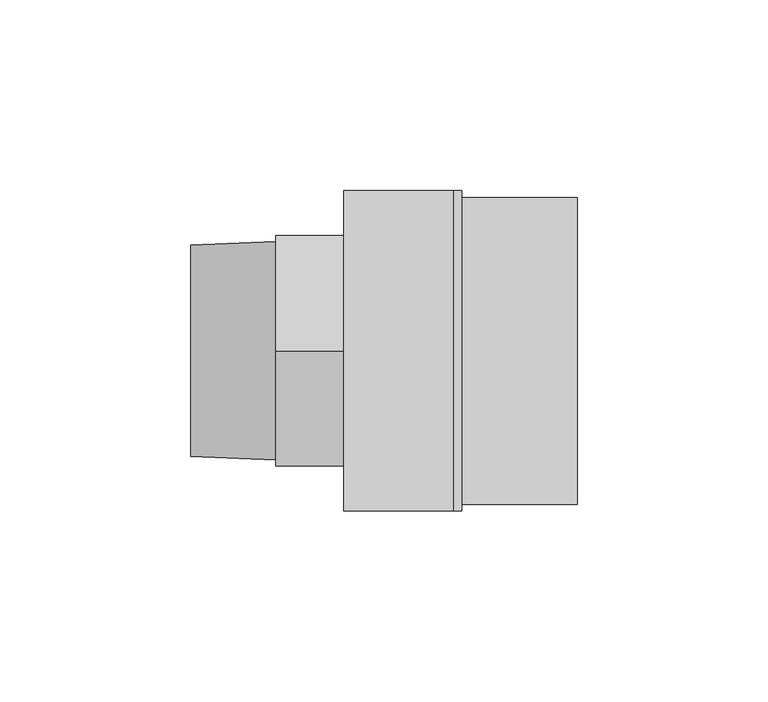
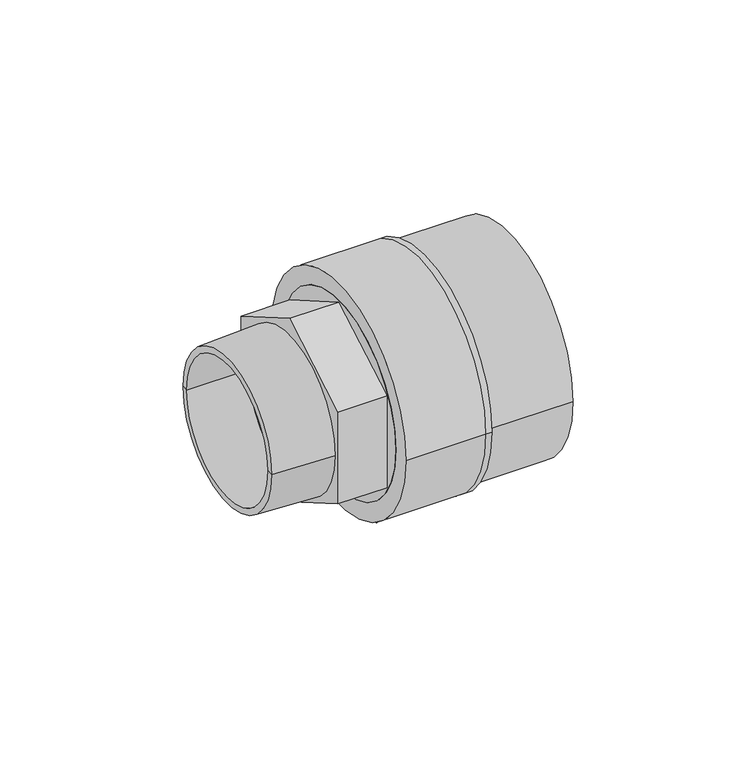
"""IFC4 building model written with IfcOpenShell, lengths in millimetres: valve geometry, Aquatherm - Transition Piece - M HEX : POTABLE BRASS."""

import ifcopenshell
import ifcopenshell.guid

model = None  # the IFC model being written
_history = None  # IfcOwnerHistory: only IFC2X3 demands one
_inside = {}  # id of a spatial element -> (the spatial element, [elements in it])
_under = {}  # id of a project, library or spatial element -> (it, [spatial elements below it])
_declared = {}  # id of a project -> (the project, [libraries it declares])
_typed = {}  # id of a type object -> (the type object, [elements of that type])
_made_of = {}  # id of a material, layer set ... -> (it, [elements and type objects made of it])


def new_model(schema):
    """Start an empty IFC model of exactly this schema.

    Asked for "IFC4X3", IfcOpenShell would pick the latest addendum, in which some entities
    have other attributes; the version numbers below select the first issue.
    IFC2X3 requires an IfcOwnerHistory on every rooted entity: one is made here for all.
    """
    global model, _history
    if schema == "IFC4X3":
        model = ifcopenshell.file(schema_version=(4, 3, 0, 0))
    else:
        model = ifcopenshell.file(schema=schema)
    _inside.clear()
    _under.clear()
    _declared.clear()
    _typed.clear()
    _made_of.clear()
    _history = None
    if model.schema == "IFC2X3":
        org = make("IfcOrganization", Name="unknown")
        user = make(
            "IfcPersonAndOrganization",
            ThePerson=make("IfcPerson", FamilyName="unknown"),
            TheOrganization=org,
        )
        app = make(
            "IfcApplication",
            ApplicationDeveloper=org,
            Version="unknown",
            ApplicationFullName="unknown",
            ApplicationIdentifier="unknown",
        )
        _history = make(
            "IfcOwnerHistory",
            OwningUser=user,
            OwningApplication=app,
            ChangeAction="ADDED",
            CreationDate=0,
        )
    return model


def make(cls, **values):
    """One entity of the class cls with the attributes given. An attribute that is None is left unset."""
    return model.create_entity(
        cls, **{name: value for name, value in values.items() if value is not None}
    )


def rooted(cls, **values):
    """An entity with a GlobalId (a new one), such as an element, a storey or a relation."""
    return make(cls, GlobalId=ifcopenshell.guid.new(), OwnerHistory=_history, **values)


def si_unit(unit_type, name, prefix=None):
    """IfcSIUnit, for example si_unit("LENGTHUNIT", "METRE", prefix="MILLI")."""
    return make("IfcSIUnit", UnitType=unit_type, Prefix=prefix, Name=name)


def assignment(units):
    """IfcUnitAssignment: the units of a project."""
    return None if units is None else make("IfcUnitAssignment", Units=units)


def point(xyz):
    """IfcCartesianPoint."""
    return None if xyz is None else make("IfcCartesianPoint", Coordinates=xyz)


def direction(xyz):
    """IfcDirection."""
    return None if xyz is None else make("IfcDirection", DirectionRatios=xyz)


def frame(location, z_axis=None, x_axis=None):
    """IfcAxis2Placement3D, a coordinate frame: its origin and axes. An axis left out is left unset."""
    return make(
        "IfcAxis2Placement3D",
        Location=point(location),
        Axis=direction(z_axis),
        RefDirection=direction(x_axis),
    )


def origin():
    """The frame at (0, 0, 0) with its axes left unset."""
    return frame((0.0, 0.0, 0.0))


def place(relative_to, where):
    """IfcLocalPlacement: puts the frame where relative to a parent placement (None: the world)."""
    return make(
        "IfcLocalPlacement", PlacementRelTo=relative_to, RelativePlacement=where
    )


def context(
    kind, dimensions, precision=None, world=None, true_north=None, identifier=None
):
    """IfcGeometricRepresentationContext, for example the 3D "Model" context."""
    return make(
        "IfcGeometricRepresentationContext",
        ContextIdentifier=identifier,
        ContextType=kind,
        CoordinateSpaceDimension=dimensions,
        Precision=precision,
        WorldCoordinateSystem=world,
        TrueNorth=true_north,
    )


def project(units=None, contexts=None):
    """IfcProject with its units and contexts."""
    return rooted(
        "IfcProject",
        Name="project",
        RepresentationContexts=contexts,
        UnitsInContext=assignment(units),
    )


def spatial(cls, under=None, at=None, **own):
    """A site, building, storey or space (cls), placed at a placement, below another one or the project."""
    s = rooted(cls, ObjectPlacement=at, **own)
    if under is not None:
        _under.setdefault(under.id(), (under, []))[1].append(s)
    return s


def polyline(points):
    """IfcPolyline through the points."""
    return make("IfcPolyline", Points=[point(p) for p in points])


def circle_curve(where, radius):
    """IfcCircle in the frame where."""
    return make("IfcCircle", Position=where, Radius=radius)


def shape(context_of_items, identifier, shape_type, items):
    """IfcShapeRepresentation: the items that make up one representation, for example the "Body"."""
    return make(
        "IfcShapeRepresentation",
        ContextOfItems=context_of_items,
        RepresentationIdentifier=identifier,
        RepresentationType=shape_type,
        Items=items,
    )


def source(mapping_origin, context_of_items, identifier, shape_type, items):
    """IfcRepresentationMap: a shape defined once, which mapped items show again and again."""
    return make(
        "IfcRepresentationMap",
        MappingOrigin=mapping_origin,
        MappedRepresentation=shape(context_of_items, identifier, shape_type, items),
    )


def transform(
    local_origin,
    x_axis=None,
    y_axis=None,
    z_axis=None,
    scale=None,
    scale2=None,
    scale3=None,
    uniform=True,
):
    """IfcCartesianTransformationOperator3D, or its non-uniform kind. x_axis, y_axis, z_axis: its Axis1, 2, 3."""
    if uniform:
        return make(
            "IfcCartesianTransformationOperator3D",
            Axis1=direction(x_axis),
            Axis2=direction(y_axis),
            LocalOrigin=point(local_origin),
            Scale=scale,
            Axis3=direction(z_axis),
        )
    return make(
        "IfcCartesianTransformationOperator3DnonUniform",
        Axis1=direction(x_axis),
        Axis2=direction(y_axis),
        LocalOrigin=point(local_origin),
        Scale=scale,
        Axis3=direction(z_axis),
        Scale2=scale2,
        Scale3=scale3,
    )


def mapped(mapping_source, mapping_target):
    """IfcMappedItem: shows the shape of a source again, moved by a transform."""
    return make(
        "IfcMappedItem", MappingSource=mapping_source, MappingTarget=mapping_target
    )


def made_of(thing, what):
    """Note that an element or type object is made of a material, layer set ...; save() writes the relation."""
    if what is not None:
        _made_of.setdefault(what.id(), (what, []))[1].append(thing)
    return thing


def element(
    cls,
    number,
    at=None,
    inside=None,
    cuts=None,
    type_object=None,
    material=None,
    context=None,
    identifier="Body",
    shape_type=None,
    held_by="IfcProductDefinitionShape",
    body=None,
    shapes=None,
    **own,
):
    """One element of the class cls, such as IfcWall. Its Tag is "e" and its number.

    at: its placement. inside: the storey or other place that contains it. cuts: it is an
    opening in that element (IfcRelVoidsElement). A single representation is given by context,
    identifier, shape_type and body (its items); several are given by shapes. held_by: the class
    of the entity that holds the representations. save() writes the other relations.
    """
    e = rooted(cls, Tag="e%d" % number, ObjectPlacement=at, **own)
    if body is not None:
        shapes = [shape(context, identifier, shape_type, body)]
    if shapes is not None:
        e.Representation = make(held_by, Representations=shapes)
    if inside is not None:
        _inside.setdefault(inside.id(), (inside, []))[1].append(e)
    if cuts is not None:
        rooted(
            "IfcRelVoidsElement", RelatingBuildingElement=cuts, RelatedOpeningElement=e
        )
    if type_object is not None:
        _typed.setdefault(type_object.id(), (type_object, []))[1].append(e)
    return made_of(e, material)


def aggregate(whole, parts):
    """IfcRelAggregates: a whole, such as a stair, and the parts it consists of."""
    return rooted("IfcRelAggregates", RelatingObject=whole, RelatedObjects=parts)


def save(model, path):
    """Write the relations noted so far, then the file.

    IfcRelAggregates (storeys below a building ...), IfcRelContainedInSpatialStructure (elements
    in a storey), IfcRelDefinesByType, IfcRelAssociatesMaterial and IfcRelDeclares: one each for
    every whole, place, type object, material and project.
    """
    for whole, parts in _under.values():
        aggregate(whole, parts)
    for where, things in _inside.values():
        rooted(
            "IfcRelContainedInSpatialStructure",
            RelatedElements=things,
            RelatingStructure=where,
        )
    for kind, things in _typed.values():
        rooted("IfcRelDefinesByType", RelatedObjects=things, RelatingType=kind)
    for what, things in _made_of.values():
        rooted("IfcRelAssociatesMaterial", RelatedObjects=things, RelatingMaterial=what)
    for by, libraries in _declared.values():
        rooted("IfcRelDeclares", RelatingContext=by, RelatedDefinitions=libraries)
    model.write(path)


def plane_surface(at):
    """IfcPlane: the flat surface through the origin of the frame at, square to its z axis."""
    return make("IfcPlane", Position=at)


def cylinder_surface(at, radius):
    """IfcCylindricalSurface: all points at the distance radius from the z axis of the frame at."""
    return make("IfcCylindricalSurface", Position=at, Radius=radius)


def revolved_surface(curve, axis_point, axis_direction):
    """IfcSurfaceOfRevolution: the curve turned about the line through axis_point along axis_direction."""
    return make(
        "IfcSurfaceOfRevolution",
        SweptCurve=make("IfcArbitraryOpenProfileDef", ProfileType="CURVE", Curve=curve),
        AxisPosition=make("IfcAxis1Placement", Location=point(axis_point), Axis=direction(axis_direction)),
    )


def advanced_brep(points, edges, surfaces, faces):
    """IfcAdvancedBrep: a solid bounded by faces that lie on surfaces and meet in shared edges.

    An edge is (start, end): straight between two places in points (the first is 0);
    or (start, end, curve); or (start, end, curve, False) where it runs against its curve.
    A face is (place in surfaces, loops), or (place, loops, False) where it looks against
    its surface's normal. A loop lists edges by number (the first is 1), with a minus sign
    where the edge is run from its end to its start. The first loop is the outer one.
    """
    corners = [point(p) for p in points]
    vertices = [make("IfcVertexPoint", VertexGeometry=c) for c in corners]
    made = []
    for start, end, *more in edges:
        made.append(
            make(
                "IfcEdgeCurve",
                EdgeStart=vertices[start],
                EdgeEnd=vertices[end],
                EdgeGeometry=more[0] if more else make("IfcPolyline", Points=[corners[start], corners[end]]),
                SameSense=more[1] if len(more) > 1 else True,
            )
        )
    hull = []
    for where, loops, *sense in faces:
        bounds = []
        for j, loop in enumerate(loops):
            ring = [make("IfcOrientedEdge", EdgeElement=made[abs(k) - 1], Orientation=k > 0) for k in loop]
            bounds.append(
                make(
                    "IfcFaceOuterBound" if j == 0 else "IfcFaceBound",
                    Bound=make("IfcEdgeLoop", EdgeList=ring),
                    Orientation=True,
                )
            )
        hull.append(make("IfcAdvancedFace", Bounds=bounds, FaceSurface=surfaces[where], SameSense=sense[0] if sense else True))
    return make("IfcAdvancedBrep", Outer=make("IfcClosedShell", CfsFaces=hull))


def valve_30ca069b(model_context):
    return source(origin(), model_context, "Body", "AdvancedBrep", [
        advanced_brep(
        [(28.702, -35.56, 0.0), (28.702, 35.56, 0.0), (28.702, -25.4, 0.0), (28.702, 25.4, 0.0), (0.0, -35.56, 0.0), (0.0, 35.56, 0.0), (0.0, 0.0, -34.9019785), (0.0, 30.226, -17.4509892), (0.0, 30.226, 17.4509892), (0.0, 0.0, 34.9019785), (0.0, -30.226, 17.4509892), (0.0, -30.226, -17.4509892), (0.0, -25.4, 0.0), (0.0, 25.4, 0.0), (-17.78, 0.0, -34.9019785), (-17.78, -30.226, -17.4509892), (-17.78, -30.226, 17.4509892), (-17.78, 0.0, 34.9019785), (-17.78, 30.226, 17.4509892), (-17.78, 30.226, -17.4509892), (-17.78, -28.6440302, 0.0), (-17.78, 28.6440302, 0.0), (-17.78, -25.4, 0.0), (-17.78, 25.4, 0.0), (-40.132, 25.4, 0.0), (-40.132, -25.4, 0.0), (-40.132, 27.7122198, 0.0), (-40.132, -27.7122198, 0.0)],
        [
            (0, 1, circle_curve(frame((28.702, 0.0, 0.0), z_axis=(1.0, 0.0, 0.0), x_axis=(0.0, 1.0, 0.0)), 35.56)),
            (1, 0, circle_curve(frame((28.702, 0.0, 0.0), z_axis=(1.0, 0.0, 0.0), x_axis=(0.0, 1.0, 0.0)), 35.56)),
            (2, 3, circle_curve(frame((28.702, 0.0, 0.0), z_axis=(-1.0, 0.0, 0.0), x_axis=(0.0, 1.0, 0.0)), 25.4)),
            (3, 2, circle_curve(frame((28.702, 0.0, 0.0), z_axis=(-1.0, 0.0, 0.0), x_axis=(0.0, 1.0, 0.0)), 25.4)),
            (4, 5, circle_curve(frame((0.0, 0.0, 0.0), z_axis=(-1.0, 0.0, 0.0), x_axis=(0.0, 1.0, 0.0)), 35.56)),
            (5, 4, circle_curve(frame((0.0, 0.0, 0.0), z_axis=(-1.0, 0.0, 0.0), x_axis=(0.0, 1.0, 0.0)), 35.56)),
            (6, 7),
            (7, 8),
            (8, 9),
            (9, 10),
            (10, 11),
            (11, 6),
            (0, 4),
            (5, 1),
            (2, 12),
            (12, 13, circle_curve(frame((0.0, 0.0, 0.0), z_axis=(-1.0, 0.0, 0.0), x_axis=(0.0, 1.0, 0.0)), 25.4)),
            (13, 3),
            (13, 12, circle_curve(frame((0.0, 0.0, 0.0), z_axis=(-1.0, 0.0, 0.0), x_axis=(0.0, 1.0, 0.0)), 25.4)),
            (14, 15),
            (15, 16),
            (16, 17),
            (17, 18),
            (18, 19),
            (19, 14),
            (20, 21, circle_curve(frame((-17.78, 0.0, 0.0), z_axis=(1.0, 0.0, 0.0), x_axis=(0.0, 1.0, 0.0)), 28.6440302)),
            (21, 20, circle_curve(frame((-17.78, 0.0, 0.0), z_axis=(1.0, 0.0, 0.0), x_axis=(0.0, 1.0, 0.0)), 28.6440302)),
            (19, 7),
            (6, 14),
            (18, 8),
            (17, 9),
            (16, 10),
            (15, 11),
            (12, 22),
            (22, 23, circle_curve(frame((-17.78, 0.0, 0.0), z_axis=(-1.0, 0.0, 0.0), x_axis=(0.0, 1.0, 0.0)), 25.4)),
            (23, 13),
            (23, 22, circle_curve(frame((-17.78, 0.0, 0.0), z_axis=(-1.0, 0.0, 0.0), x_axis=(0.0, 1.0, 0.0)), 25.4)),
            (23, 24),
            (24, 25, circle_curve(frame((-40.132, 0.0, 0.0), z_axis=(-1.0, 0.0, 0.0), x_axis=(0.0, 1.0, 0.0)), 25.4)),
            (25, 22),
            (25, 24, circle_curve(frame((-40.132, 0.0, 0.0), z_axis=(-1.0, 0.0, 0.0), x_axis=(0.0, 1.0, 0.0)), 25.4)),
            (24, 26),
            (26, 27, circle_curve(frame((-40.132, 0.0, 0.0), z_axis=(-1.0, 0.0, 0.0), x_axis=(0.0, 1.0, 0.0)), 27.7122198)),
            (27, 25),
            (27, 26, circle_curve(frame((-40.132, 0.0, 0.0), z_axis=(-1.0, 0.0, 0.0), x_axis=(0.0, 1.0, 0.0)), 27.7122198)),
            (26, 21),
            (20, 27),
        ],
        [
            plane_surface(frame((28.702, 35.56, 0.0), z_axis=(1.0, 0.0, 0.0), x_axis=(0.0, 0.0, 1.0))),
            plane_surface(frame((0.0, 35.56, 0.0), z_axis=(-1.0, 0.0, 0.0), x_axis=(0.0, 0.0, -1.0))),
            cylinder_surface(frame((0.0, 0.0, 0.0), z_axis=(1.0, 0.0, 0.0), x_axis=(0.0, 1.0, 0.0)), 35.56),
            revolved_surface(polyline([(0.0, 25.4, 0.0), (28.702, 25.4, 0.0)]), (17.447219, 0.0, 0.0), (-1.0, 0.0, 0.0)),
            plane_surface(frame((-17.78, 0.0, -34.9019785), z_axis=(-1.0, 0.0, 0.0), x_axis=(0.0, -0.8660254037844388, -0.4999999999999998))),
            plane_surface(frame((0.0, 0.0, -34.9019785), z_axis=(0.0, 0.4999999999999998, -0.8660254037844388), x_axis=(-1.0, 0.0, 0.0))),
            plane_surface(frame((0.0, 30.226, -17.4509892), z_axis=(0.0, 1.0, 0.0), x_axis=(-1.0, 0.0, 0.0))),
            plane_surface(frame((0.0, 30.226, 17.4509892), z_axis=(0.0, 0.4999999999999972, 0.8660254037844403), x_axis=(-1.0, 0.0, 0.0))),
            plane_surface(frame((0.0, 0.0, 34.9019785), z_axis=(0.0, -0.5000000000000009, 0.8660254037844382), x_axis=(-1.0, 0.0, 0.0))),
            plane_surface(frame((0.0, -30.226, 17.4509892), z_axis=(0.0, -1.0, 0.0), x_axis=(-1.0, 0.0, 0.0))),
            plane_surface(frame((0.0, -30.226, -17.4509892), z_axis=(0.0, -0.4999999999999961, -0.8660254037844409), x_axis=(-1.0, 0.0, 0.0))),
            revolved_surface(polyline([(-17.78, 25.4, 0.0), (0.0, 25.4, 0.0)]), (0.0, 0.0, 0.0), (-1.0, 0.0, 0.0)),
            revolved_surface(polyline([(-40.132, 25.4, 0.0), (-17.78, 25.4, 0.0)]), (-75.0050688, 0.0, 0.0), (-1.0, 0.0, 0.0)),
            plane_surface(frame((-40.132, 0.0, 0.0), z_axis=(-1.0, 0.0, 0.0), x_axis=(0.0, 1.0, 0.0))),
            revolved_surface(polyline([(-17.78, 28.6440302, 0.0), (-40.132, 27.7122198, 0.0)]), (-75.0050688, 0.0, 0.0), (-1.0, 0.0, 0.0)),
        ],
        [
            (0, [[1, 2], [3, 4]]),
            (1, [[5, 6], [7, 8, 9, 10, 11, 12]]),
            (2, [[-1, 13, -6, 14]]),
            (2, [[-2, -14, -5, -13]]),
            (3, [[-3, 15, 16, 17]]),
            (3, [[-4, -17, 18, -15]]),
            (4, [[19, 20, 21, 22, 23, 24], [25, 26]]),
            (5, [[-24, 27, -7, 28]]),
            (6, [[-23, 29, -8, -27]]),
            (7, [[-22, 30, -9, -29]]),
            (8, [[-21, 31, -10, -30]]),
            (9, [[-20, 32, -11, -31]]),
            (10, [[-19, -28, -12, -32]]),
            (11, [[33, 34, 35, -16]]),
            (11, [[-33, -18, -35, 36]]),
            (12, [[37, 38, 39, -36]]),
            (12, [[-37, -34, -39, 40]]),
            (13, [[-38, 41, 42, 43]]),
            (13, [[-40, -43, 44, -41]]),
            (14, [[-42, 45, -25, 46]]),
            (14, [[-44, -46, -26, -45]]),
        ],
    ),
        advanced_brep(
        [(0.0, -42.037, 0.0), (0.0, 42.037, 0.0), (0.0, -35.56, 0.0), (0.0, 35.56, 0.0), (28.702, 42.037, 0.0), (28.702, -42.037, 0.0), (28.702, 35.56, 0.0), (28.702, -35.56, 0.0), (30.988, -42.037, 0.0), (30.988, 42.037, 0.0), (30.988, 40.259, 0.0), (30.988, -40.259, 0.0), (30.988, 37.465, 0.0), (30.988, -37.465, 0.0), (30.988, -31.75, 0.0), (30.988, 31.75, 0.0), (28.702, -31.75, 0.0), (28.702, 31.75, 0.0), (61.214, -40.259, 0.0), (61.214, 40.259, 0.0), (61.214, -37.465, 0.0), (61.214, 37.465, 0.0)],
        [
            (0, 1, circle_curve(frame((0.0, 0.0, 0.0), z_axis=(-1.0, 0.0, 0.0), x_axis=(0.0, 1.0, 0.0)), 42.037)),
            (1, 0, circle_curve(frame((0.0, 0.0, 0.0), z_axis=(-1.0, 0.0, 0.0), x_axis=(0.0, 1.0, 0.0)), 42.037)),
            (2, 3, circle_curve(frame((0.0, 0.0, 0.0), z_axis=(1.0, 0.0, 0.0), x_axis=(0.0, 1.0, 0.0)), 35.56)),
            (3, 2, circle_curve(frame((0.0, 0.0, 0.0), z_axis=(1.0, 0.0, 0.0), x_axis=(0.0, 1.0, 0.0)), 35.56)),
            (1, 4),
            (4, 5, circle_curve(frame((28.702, 0.0, 0.0), z_axis=(-1.0, 0.0, 0.0), x_axis=(0.0, 1.0, 0.0)), 42.037)),
            (5, 0),
            (5, 4, circle_curve(frame((28.702, 0.0, 0.0), z_axis=(-1.0, 0.0, 0.0), x_axis=(0.0, 1.0, 0.0)), 42.037)),
            (3, 6),
            (6, 7, circle_curve(frame((28.702, 0.0, 0.0), z_axis=(1.0, 0.0, 0.0), x_axis=(0.0, 1.0, 0.0)), 35.56)),
            (7, 2),
            (7, 6, circle_curve(frame((28.702, 0.0, 0.0), z_axis=(1.0, 0.0, 0.0), x_axis=(0.0, 1.0, 0.0)), 35.56)),
            (8, 9, circle_curve(frame((30.988, 0.0, 0.0), z_axis=(1.0, 0.0, 0.0), x_axis=(0.0, 1.0, 0.0)), 42.037)),
            (9, 8, circle_curve(frame((30.988, 0.0, 0.0), z_axis=(1.0, 0.0, 0.0), x_axis=(0.0, 1.0, 0.0)), 42.037)),
            (10, 11, circle_curve(frame((30.988, 0.0, 0.0), z_axis=(-1.0, 0.0, 0.0), x_axis=(0.0, 1.0, 0.0)), 40.259)),
            (11, 10, circle_curve(frame((30.988, 0.0, 0.0), z_axis=(-1.0, 0.0, 0.0), x_axis=(0.0, 1.0, 0.0)), 40.259)),
            (12, 13, circle_curve(frame((30.988, 0.0, 0.0), z_axis=(1.0, 0.0, 0.0), x_axis=(0.0, 1.0, 0.0)), 37.465)),
            (13, 12, circle_curve(frame((30.988, 0.0, 0.0), z_axis=(1.0, 0.0, 0.0), x_axis=(0.0, 1.0, 0.0)), 37.465)),
            (14, 15, circle_curve(frame((30.988, 0.0, 0.0), z_axis=(-1.0, 0.0, 0.0), x_axis=(0.0, 1.0, 0.0)), 31.75)),
            (15, 14, circle_curve(frame((30.988, 0.0, 0.0), z_axis=(-1.0, 0.0, 0.0), x_axis=(0.0, 1.0, 0.0)), 31.75)),
            (16, 17, circle_curve(frame((28.702, 0.0, 0.0), z_axis=(1.0, 0.0, 0.0), x_axis=(0.0, 1.0, 0.0)), 31.75)),
            (17, 16, circle_curve(frame((28.702, 0.0, 0.0), z_axis=(1.0, 0.0, 0.0), x_axis=(0.0, 1.0, 0.0)), 31.75)),
            (8, 5),
            (4, 9),
            (14, 16),
            (17, 15),
            (18, 19, circle_curve(frame((61.214, 0.0, 0.0), z_axis=(1.0, 0.0, 0.0), x_axis=(0.0, 1.0, 0.0)), 40.259)),
            (19, 18, circle_curve(frame((61.214, 0.0, 0.0), z_axis=(1.0, 0.0, 0.0), x_axis=(0.0, 1.0, 0.0)), 40.259)),
            (20, 21, circle_curve(frame((61.214, 0.0, 0.0), z_axis=(-1.0, 0.0, 0.0), x_axis=(0.0, 1.0, 0.0)), 37.465)),
            (21, 20, circle_curve(frame((61.214, 0.0, 0.0), z_axis=(-1.0, 0.0, 0.0), x_axis=(0.0, 1.0, 0.0)), 37.465)),
            (18, 11),
            (10, 19),
            (20, 13),
            (12, 21),
        ],
        [
            plane_surface(frame((0.0, 42.037, 0.0), z_axis=(-1.0, 0.0, 0.0), x_axis=(0.0, 0.0, -1.0))),
            cylinder_surface(frame((0.0, 0.0, 0.0), z_axis=(1.0, 0.0, 0.0), x_axis=(0.0, 1.0, 0.0)), 42.037),
            revolved_surface(polyline([(0.0, 35.56, 0.0), (28.702000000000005, 35.56, 0.0)]), (-38.1, 0.0, 0.0), (-1.0, 0.0, 0.0)),
            plane_surface(frame((30.988, 42.037, 0.0), z_axis=(1.0, 0.0, 0.0), x_axis=(0.0, 0.0, 1.0))),
            plane_surface(frame((28.702, 42.037, 0.0), z_axis=(-1.0, 0.0, 0.0), x_axis=(0.0, 0.0, -1.0))),
            cylinder_surface(frame((28.702, 0.0, 0.0), z_axis=(1.0, 0.0, 0.0), x_axis=(0.0, 1.0, 0.0)), 42.037),
            revolved_surface(polyline([(28.702, 31.75, 0.0), (30.987999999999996, 31.75, 0.0)]), (-19.05, 0.0, 0.0), (-1.0, 0.0, 0.0)),
            plane_surface(frame((61.214, 40.259, 0.0), z_axis=(1.0, 0.0, 0.0), x_axis=(0.0, 0.0, 1.0))),
            cylinder_surface(frame((30.988, 0.0, 0.0), z_axis=(1.0, 0.0, 0.0), x_axis=(0.0, 1.0, 0.0)), 40.259),
            revolved_surface(polyline([(30.988, 37.465, 0.0), (61.214, 37.465, 0.0)]), (0.0, 0.0, 0.0), (-1.0, 0.0, 0.0)),
        ],
        [
            (0, [[1, 2], [3, 4]]),
            (1, [[-2, 5, 6, 7]]),
            (1, [[-1, -7, 8, -5]]),
            (2, [[-4, 9, 10, 11]]),
            (2, [[-3, -11, 12, -9]]),
            (3, [[13, 14], [15, 16]]),
            (3, [[17, 18], [19, 20]]),
            (4, [[-10, -12], [21, 22]]),
            (5, [[-13, 23, -6, 24]]),
            (5, [[-14, -24, -8, -23]]),
            (6, [[-19, 25, -22, 26]]),
            (6, [[-20, -26, -21, -25]]),
            (7, [[27, 28], [29, 30]]),
            (8, [[-27, 31, -15, 32]]),
            (8, [[-28, -32, -16, -31]]),
            (9, [[-29, 33, -17, 34]]),
            (9, [[-30, -34, -18, -33]]),
        ],
    ),
    ])


if __name__ == "__main__":
    model = new_model("IFC4")
    model_context = context("Model", 3, world=origin())
    ifc_project = project(units=[si_unit("LENGTHUNIT", "METRE", prefix="MILLI")], contexts=[model_context])
    site = spatial("IfcSite", under=ifc_project)
    building = spatial("IfcBuilding", under=site)
    placement = place(None, origin())
    valve_shape = valve_30ca069b(model_context)
    element("IfcValve", 1, ObjectType="Aquatherm - Transition Piece - M HEX : POTABLE BRASS", at=placement, inside=building, context=model_context, shape_type="MappedRepresentation", body=[
        mapped(valve_shape, transform((0.0, 0.0, 0.0), x_axis=(1.0, 0.0, 0.0), y_axis=(0.0, 1.0, 0.0), z_axis=(0.0, 0.0, 1.0))),
    ])
    save(model, "model.ifc")
